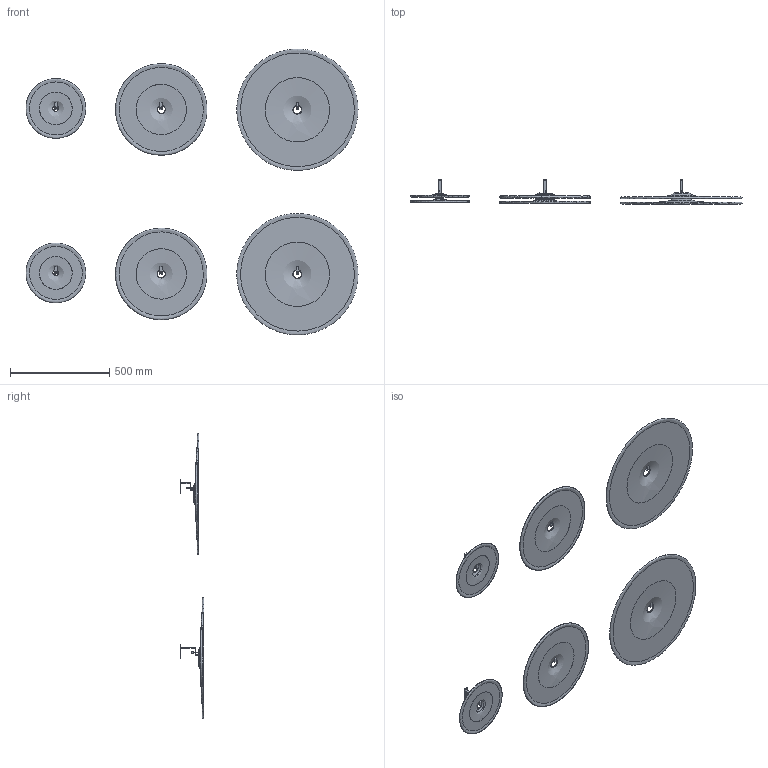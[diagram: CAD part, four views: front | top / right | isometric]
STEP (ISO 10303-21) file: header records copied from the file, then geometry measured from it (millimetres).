
FILE_DESCRIPTION(/* description */ (''),/* implementation_level */ '2;1');
FILE_NAME(/* name */ 'SkLO_SC305-307_Pool_Wallpiece_3D',/* time_stamp */ '2024-08-08T22:45:22+02:00',/* author */ (''),/* organization */ (''),/* preprocessor_version */ 'ST-DEVELOPER v16.5',/* originating_system */ 'Rhino 7.34',/* authorisation */ '');
FILE_SCHEMA (('CONFIG_CONTROL_DESIGN'));
Length unit declared in the file: millimetre
Products named in the file (1): Document
Bounding box: 1671.18 x 120.04 x 1437.9 mm (x, y, z)
Volume: 6158462.7 mm3; surface area: 2212117.2 mm2
Topology: 54 solids, 54 shells, 756 faces, 1864 edges, 1192 vertices
Faces by surface type: plane 492, bspline 156, cylinder 108
Full cylindrical faces by diameter (mm): 7.744 x6
Entity records: 51362 total; most frequent: CARTESIAN_POINT 38736, ORIENTED_EDGE 3704, EDGE_CURVE 1852, B_SPLINE_CURVE_WITH_KNOTS 1510, VERTEX_POINT 1192, EDGE_LOOP 804, ADVANCED_FACE 756, FACE_OUTER_BOUND 756
